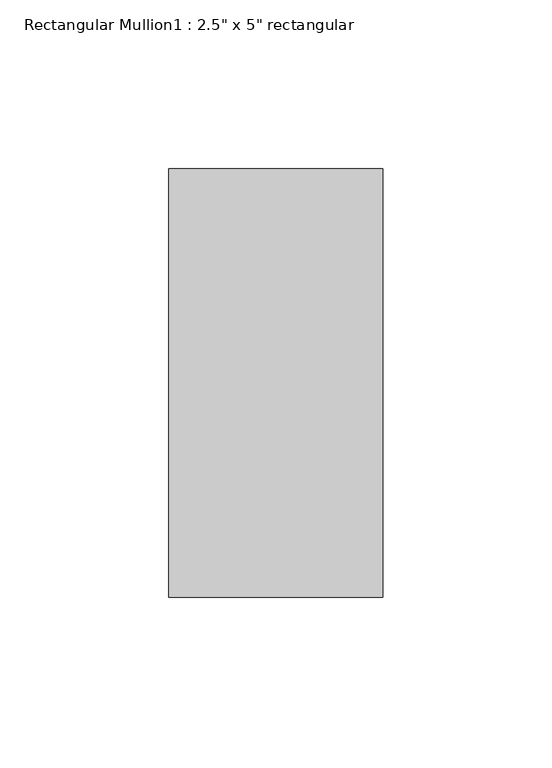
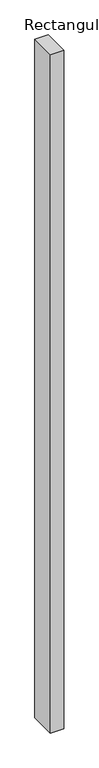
"""IFC4 building model written with IfcOpenShell, lengths in millimetres: member geometry."""

from ifc_helpers import new_model, si_unit, frame, origin, place, context, project, spatial, polyline, outline, extrude, source, transform, mapped, element, save


def member_74dafc5e(model_context):
    return source(origin(), model_context, "Body", "SweptSolid", [
        extrude(outline(polyline([(0.0, 63.5), (0.0, -63.5), (-63.5, -63.5), (-63.5, 63.5), (0.0, 63.5)])), frame((0.0, 0.0, -3414.1833333), z_axis=(0.0, 0.0, 1.0), x_axis=(1.0, 0.0, 0.0)), (0.0, 0.0, 1.0), 3414.1833333),
    ])


if __name__ == "__main__":
    model = new_model("IFC4")
    model_context = context("Model", 3, world=origin())
    ifc_project = project(units=[si_unit("LENGTHUNIT", "METRE", prefix="MILLI")], contexts=[model_context])
    site = spatial("IfcSite", under=ifc_project)
    building = spatial("IfcBuilding", under=site)
    placement = place(None, origin())
    member_shape = member_74dafc5e(model_context)
    element("IfcMember", 1, ObjectType="Rectangular Mullion1 : 2.5\" x 5\" rectangular", at=placement, inside=building, context=model_context, shape_type="MappedRepresentation", body=[
        mapped(member_shape, transform((0.0, 0.0, 0.0), x_axis=(1.0, 0.0, 0.0), y_axis=(0.0, 1.0, 0.0), z_axis=(0.0, 0.0, 1.0))),
    ])
    save(model, "model.ifc")
